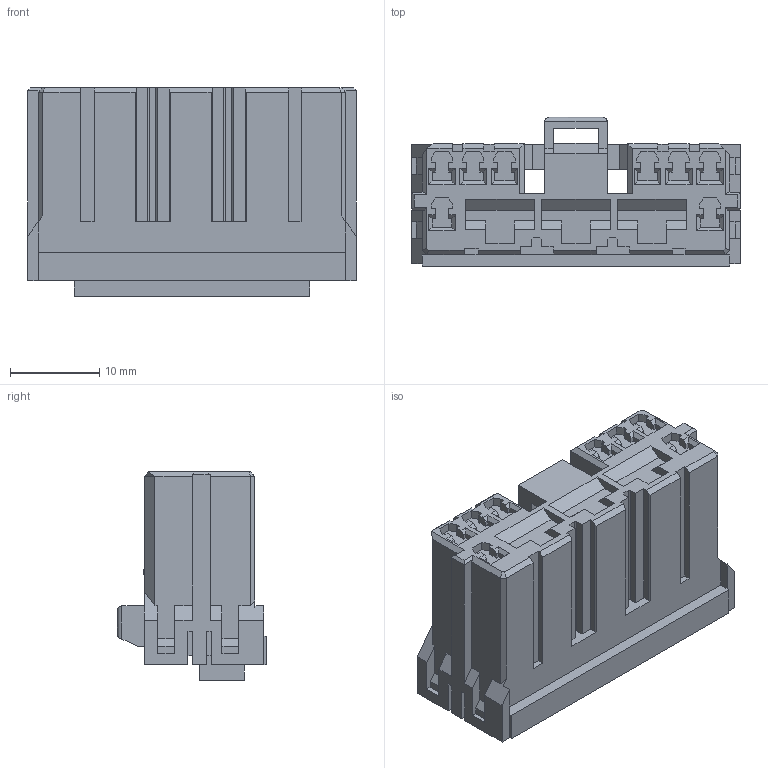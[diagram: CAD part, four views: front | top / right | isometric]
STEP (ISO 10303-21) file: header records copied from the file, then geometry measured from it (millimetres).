
FILE_DESCRIPTION((''),'2;1');
FILE_NAME('C-174925-1','2008-09-26T',('workeradm'),('Tyco Electronics Corporation'),'PRO/ENGINEER BY PARAMETRIC TECHNOLOGY CORPORATION, 2005450','PRO/ENGINEER BY PARAMETRIC TECHNOLOGY CORPORATION, 2005450','');
FILE_SCHEMA(('CONFIG_CONTROL_DESIGN', 'GEOMETRIC_VALIDATION_PROPERTIES_MIM'));
Length unit declared in the file: millimetre
Products named in the file (1): C-174925-1
Bounding box: 36.8 x 16.69 x 23.32 mm (x, y, z)
Volume: 8066.5 mm3; surface area: 4660.8 mm2
Topology: 1 solids, 1 shells, 456 faces, 1253 edges, 809 vertices
Faces by surface type: plane 452, cylinder 4
Entity records: 14224 total; most frequent: CARTESIAN_POINT 2553, ORIENTED_EDGE 2506, DIRECTION 2159, EDGE_CURVE 1253, VECTOR 1247, LINE 1247, VERTEX_POINT 809, EDGE_LOOP 470
